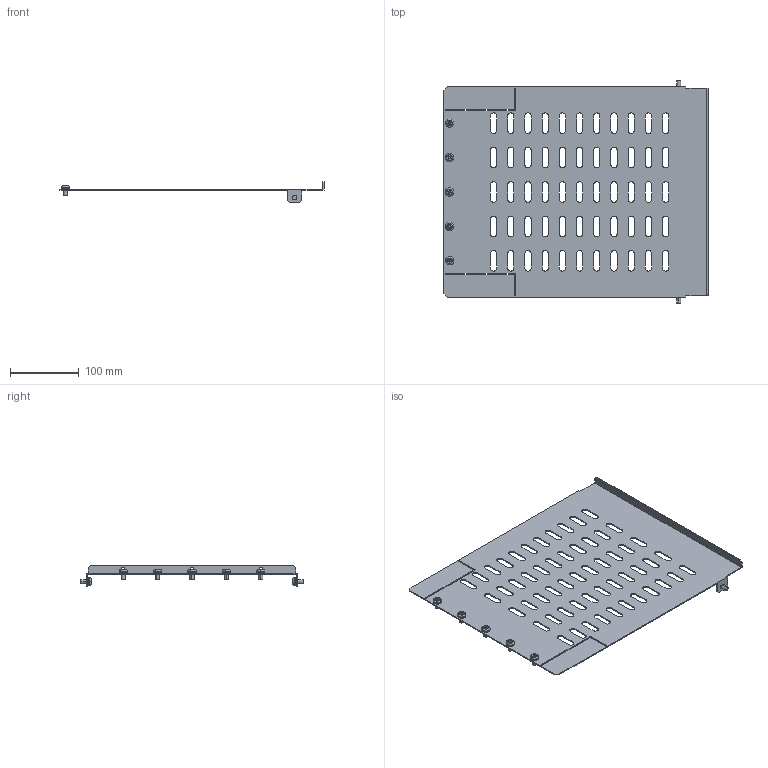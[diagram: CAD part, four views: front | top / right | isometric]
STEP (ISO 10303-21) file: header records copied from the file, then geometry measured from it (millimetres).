
FILE_DESCRIPTION (( 'STEP AP214' ), '1' );
FILE_NAME ('FO-00-SWHR-040 Ïåðåãîðîäêà ñåêöèîíèðîâàíèÿ ãîðèçîíòàëüíàÿ àïïàðàòíîãî îòñåêà øèðèíà 400 ìì.STEP', '2025-08-06T11:58:00', ( '' ), ( '' ), 'SwSTEP 2.0', 'SolidWorks 2023', '' );
FILE_SCHEMA (( 'AUTOMOTIVE_DESIGN' ));
Length unit declared in the file: millimetre
Products named in the file (3): Винт М6х10 IEK; FO-00-SWHR-040 Перегородка секционирования горизонтальная аппаратного отсека ширина 400 мм; Перегородка секционирования горизонтальная аппаратного отсека ширина 400 мм
Assembly tree (8 placements, depth 2):
  FO-00-SWHR-040 Перегородка секционирования горизонтальная аппаратного отсека ширина 400 мм
    Перегородка секционирования горизонтальная аппаратного отсека ширина 400 мм
    Винт М6х10 IEK  x7
Bounding box: 383.5 x 323 x 30.5 mm (x, y, z)
Volume: 164994 mm3; surface area: 226444.9 mm2
Topology: 8 solids, 8 shells, 521 faces, 1431 edges, 940 vertices
Faces by surface type: plane 258, cylinder 158, cone 77, torus 28
Entity records: 11599 total; most frequent: CARTESIAN_POINT 2003, ORIENTED_EDGE 1962, DIRECTION 1961, EDGE_CURVE 981, LINE 677, VECTOR 677, VERTEX_POINT 652, AXIS2_PLACEMENT_3D 642
